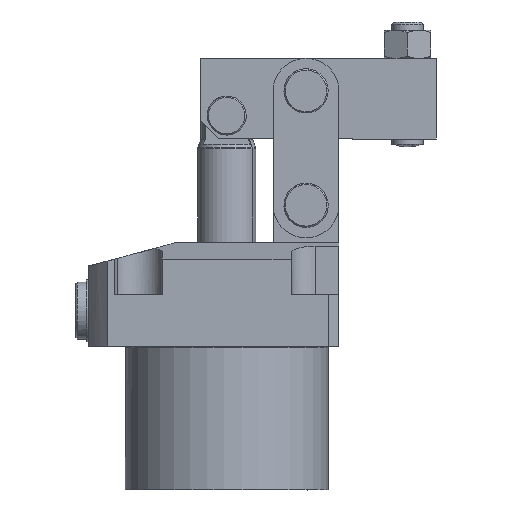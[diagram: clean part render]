
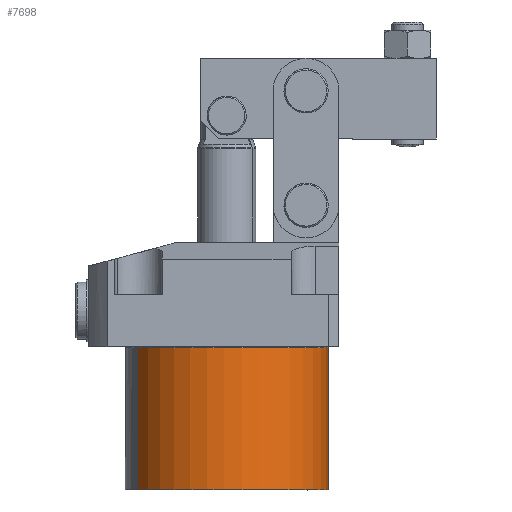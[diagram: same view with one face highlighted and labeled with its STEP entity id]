
A CAD part, left-side view. The second image highlights one B-rep face of the part: STEP entity #7698.
In plain terms, the highlighted cylindrical face has radius 39 mm (diameter 78 mm), a partial arc.
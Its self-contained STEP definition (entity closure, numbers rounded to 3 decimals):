
#7259=AXIS2_PLACEMENT_3D('Circle Axis2P3D',#7257,#7258,$) ;
#7685=AXIS2_PLACEMENT_3D('Cylinder Axis2P3D',#7682,#7683,#7684) ;
#7689=AXIS2_PLACEMENT_3D('Circle Axis2P3D',#7687,#7688,$) ;
#7206=CARTESIAN_POINT('Vertex',(18.698,-34.226,54.7)) ;
#7237=CARTESIAN_POINT('Vertex',(-18.698,34.226,54.7)) ;
#7257=CARTESIAN_POINT('Axis2P3D Location',(0.,0.,54.7)) ;
#7655=CARTESIAN_POINT('Line Origine',(18.698,-34.226,47.5)) ;
#7659=CARTESIAN_POINT('Vertex',(18.698,-34.226,0.)) ;
#7666=CARTESIAN_POINT('Vertex',(-18.698,34.226,0.)) ;
#7669=CARTESIAN_POINT('Line Origine',(-18.698,34.226,47.5)) ;
#7682=CARTESIAN_POINT('Axis2P3D Location',(0.,0.,47.5)) ;
#7687=CARTESIAN_POINT('Axis2P3D Location',(0.,0.,0.)) ;
#7258=DIRECTION('Axis2P3D Direction',(0.,0.,1.)) ;
#7656=DIRECTION('Vector Direction',(0.,0.,1.)) ;
#7670=DIRECTION('Vector Direction',(0.,0.,1.)) ;
#7683=DIRECTION('Axis2P3D Direction',(0.,0.,1.)) ;
#7684=DIRECTION('Axis2P3D XDirection',(-0.479,0.878,0.)) ;
#7688=DIRECTION('Axis2P3D Direction',(0.,0.,1.)) ;
#7657=VECTOR('Line Direction',#7656,1.) ;
#7671=VECTOR('Line Direction',#7670,1.) ;
#7693=ORIENTED_EDGE('',*,*,#7673,.F.) ;
#7694=ORIENTED_EDGE('',*,*,#7691,.T.) ;
#7695=ORIENTED_EDGE('',*,*,#7661,.T.) ;
#7696=ORIENTED_EDGE('',*,*,#7261,.T.) ;
#7698=ADVANCED_FACE('Manifold Brep',(#7697),#7686,.T.) ;
#7260=CIRCLE('generated circle',#7259,39.) ;
#7690=CIRCLE('generated circle',#7689,39.) ;
#7686=CYLINDRICAL_SURFACE('generated cylinder',#7685,39.) ;
#7261=EDGE_CURVE('',#7207,#7238,#7260,.F.) ;
#7661=EDGE_CURVE('',#7660,#7207,#7658,.T.) ;
#7673=EDGE_CURVE('',#7667,#7238,#7672,.T.) ;
#7691=EDGE_CURVE('',#7667,#7660,#7690,.T.) ;
#7692=EDGE_LOOP('',(#7693,#7694,#7695,#7696)) ;
#7697=FACE_OUTER_BOUND('',#7692,.T.) ;
#7658=LINE('Line',#7655,#7657) ;
#7672=LINE('Line',#7669,#7671) ;
#7207=VERTEX_POINT('',#7206) ;
#7238=VERTEX_POINT('',#7237) ;
#7660=VERTEX_POINT('',#7659) ;
#7667=VERTEX_POINT('',#7666) ;
